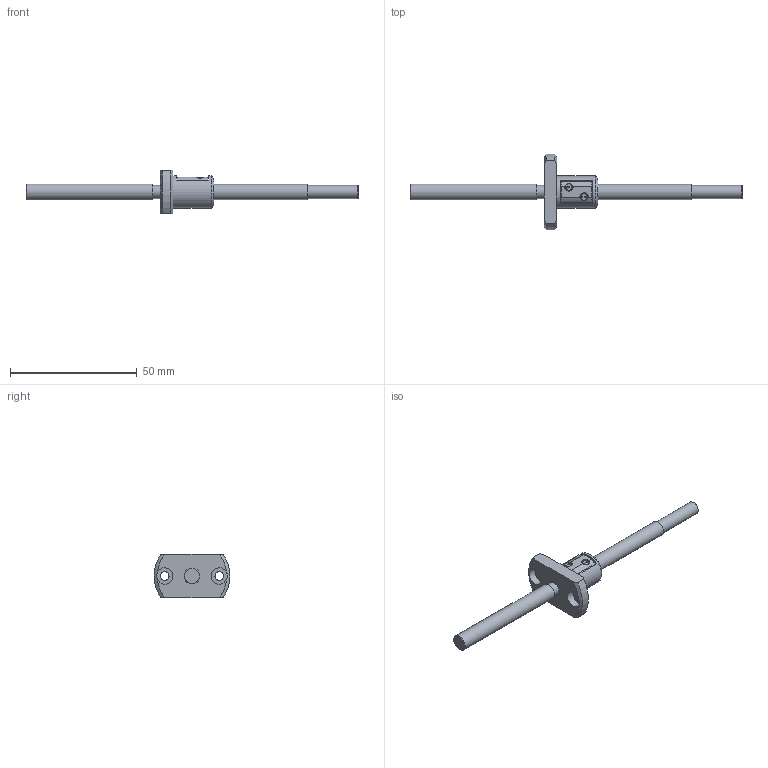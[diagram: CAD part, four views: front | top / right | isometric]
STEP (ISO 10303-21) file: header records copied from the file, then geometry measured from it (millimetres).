
FILE_DESCRIPTION(/* description */ ('STEP AP203'),/* implementation_level */ '2;1');
FILE_NAME(/* name */ 'MBF0601-3.7GT+131LC3A(0)',/* time_stamp */ '2024-07-15T08:03:16+02:00',/* author */ ('License CC BY-ND 4.0'),/* organization */ ('CADENAS'),/* preprocessor_version */ 'ST-DEVELOPER v19.3',/* originating_system */ 'PARTsolutions',/* authorisation */ ' ');
FILE_SCHEMA (('CONFIG_CONTROL_DESIGN'));
Length unit declared in the file: millimetre
Products named in the file (3): MBF0601-3.7GT+131LC3A(0); MBF0601-3.7GT+131LC3A(.0)_shaft; MBF 0601-3.7_nut
Assembly tree (2 placements, depth 2):
  MBF0601-3.7GT+131LC3A(0)
    MBF0601-3.7GT+131LC3A(.0)_shaft
    MBF 0601-3.7_nut
Bounding box: 131 x 29.89 x 17 mm (x, y, z)
Volume: 7270.3 mm3; surface area: 5016.9 mm2
Topology: 2 solids, 2 shells, 63 faces, 156 edges, 103 vertices
Faces by surface type: plane 32, cylinder 18, cone 13
Full cylindrical faces by diameter (mm): 3.4 x2, 5.2 x2, 6 x2, 6.3 x1, 6.5 x2, 13 x1
Entity records: 1923 total; most frequent: CARTESIAN_POINT 418, DIRECTION 292, ORIENTED_EDGE 282, EDGE_CURVE 141, AXIS2_PLACEMENT_3D 121, VERTEX_POINT 101, EDGE_LOOP 88, FACE_BOUND 88
